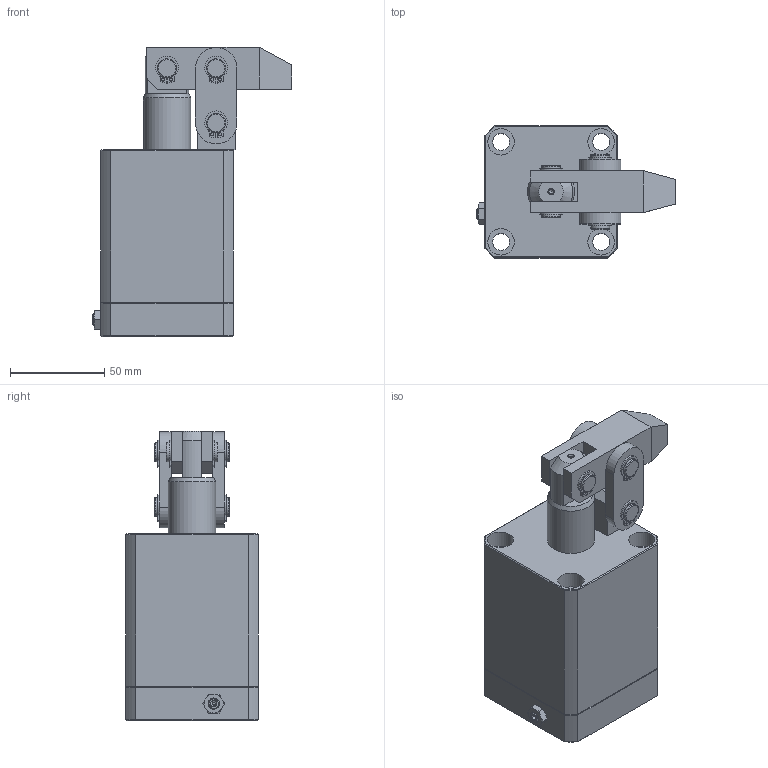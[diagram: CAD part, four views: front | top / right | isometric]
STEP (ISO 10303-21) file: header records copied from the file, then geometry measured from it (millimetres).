
FILE_DESCRIPTION(/* description */ ('Unknown'),/* implementation_level */ '2;1');
FILE_NAME(/* name */ 'HLB-MF40-A',/* time_stamp */ '2025-06-04T02:02:44+08:00',/* author */ ('Unknown'),/* organization */ ('Unknown'),/* preprocessor_version */ 'ST-DEVELOPER v16.7',/* originating_system */ 'DEX',/* authorisation */ $);
FILE_SCHEMA (('AUTOMOTIVE_DESIGN {1 0 10303 214 3 1 1}'));
Length unit declared in the file: millimetre
Products named in the file (8): HLB-MF40-A; HLB-MF40-CYLINDER; HLB-40-墊; HLB-40-CΙ倞; HLB-40-A; HLB-4002-AXLE CENTRE; HLB-40-PINµu; HLB-40-PINªø-
Assembly tree (14 placements, depth 2):
  HLB-MF40-A
    HLB-MF40-CYLINDER
    HLB-40-墊  x2
    HLB-40-CΙ倞  x6
    HLB-40-A
    HLB-4002-AXLE CENTRE
    HLB-40-PINµu
    HLB-40-PINªø-  x2
Bounding box: 105.6 x 70 x 153.2 mm (x, y, z)
Volume: 488440 mm3; surface area: 89650.4 mm2
Topology: 14 solids, 14 shells, 308 faces, 706 edges, 452 vertices
Faces by surface type: plane 138, cylinder 116, cone 34, bspline 12, torus 8
Full cylindrical faces by diameter (mm): 1.7 x12, 2.496 x1, 5 x2, 6 x1, 9 x4, 9.5 x7, 10 x17, 12 x2, 14 x4, 25 x2, 40 x2
Entity records: 5801 total; most frequent: CARTESIAN_POINT 1296, DIRECTION 879, ORIENTED_EDGE 788, EDGE_CURVE 394, AXIS2_PLACEMENT_3D 362, FACE_BOUND 306, EDGE_LOOP 305, VERTEX_POINT 274
